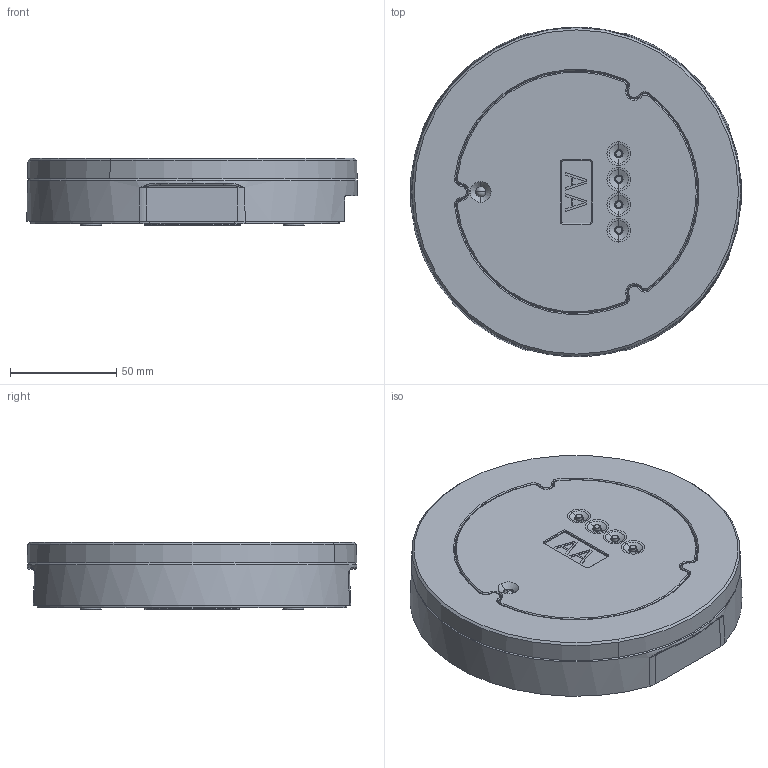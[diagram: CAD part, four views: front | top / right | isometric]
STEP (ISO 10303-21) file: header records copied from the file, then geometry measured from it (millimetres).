
FILE_DESCRIPTION((''),'2;1');
FILE_NAME('CL1-VEREINFACHT','2021-01-18T09:30:13',('Michael.Spatz'),(''),'CREO PARAMETRIC BY PTC INC, 2018500','CREO PARAMETRIC BY PTC INC, 2018500','');
FILE_SCHEMA(('AUTOMOTIVE_DESIGN { 1 0 10303 214 1 1 1 1 }'));
Products named in the file (1): CL1-VEREINFACHT
Bounding box: 155.57 x 155.26 x 31.7 mm (x, y, z)
Volume: 157267.4 mm3; surface area: 152446.2 mm2
Topology: 16 solids, 177 shells, 8042 faces, 20890 edges, 12358 vertices
Faces by surface type: plane 4148, cylinder 2565, sphere 463, cone 386, bspline 214, extrusion 144, torus 114, revolution 8
Entity records: 279320 total; most frequent: CARTESIAN_POINT 60336, ORIENTED_EDGE 39455, DIRECTION 38009, EDGE_CURVE 20372, VECTOR 13430, LINE 13286, VERTEX_POINT 12286, AXIS2_PLACEMENT_3D 12284
